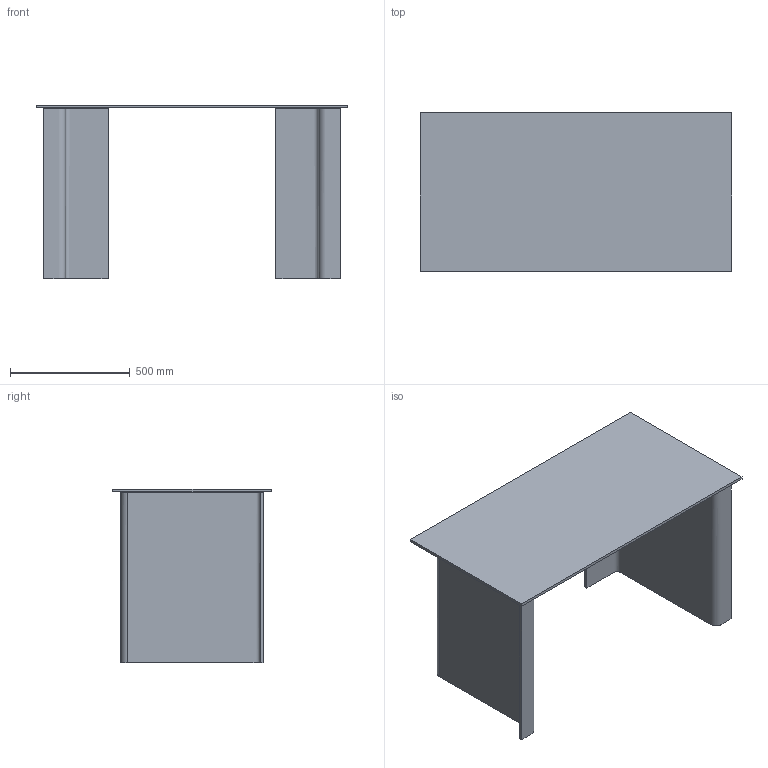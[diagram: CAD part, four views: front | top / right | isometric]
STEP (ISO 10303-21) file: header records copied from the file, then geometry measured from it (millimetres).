
FILE_DESCRIPTION(/* description */ (''),/* implementation_level */ '2;1');
FILE_NAME(/* name */ 'S1322 - Luminare Small Office 130x66',/* time_stamp */ '2010-12-10T10:25:28+01:00',/* author */ (''),/* organization */ (''),/* preprocessor_version */ 'ST-DEVELOPER v10',/* originating_system */ '',/* authorisation */ '');
FILE_SCHEMA (('CONFIG_CONTROL_DESIGN'));
Length unit declared in the file: centimetre
Products named in the file (1): 1
Bounding box: 1300 x 660 x 726 mm (x, y, z)
Volume: 10301709 mm3; surface area: 4155831 mm2
Topology: 9 solids, 11 shells, 48 faces, 90 edges, 60 vertices
Faces by surface type: plane 26, bspline 22
Entity records: 1508 total; most frequent: CARTESIAN_POINT 813, ORIENTED_EDGE 160, EDGE_CURVE 90, VERTEX_POINT 60, ADVANCED_FACE 48, FACE_OUTER_BOUND 48, EDGE_LOOP 48, B_SPLINE_CURVE_WITH_KNOTS 46
